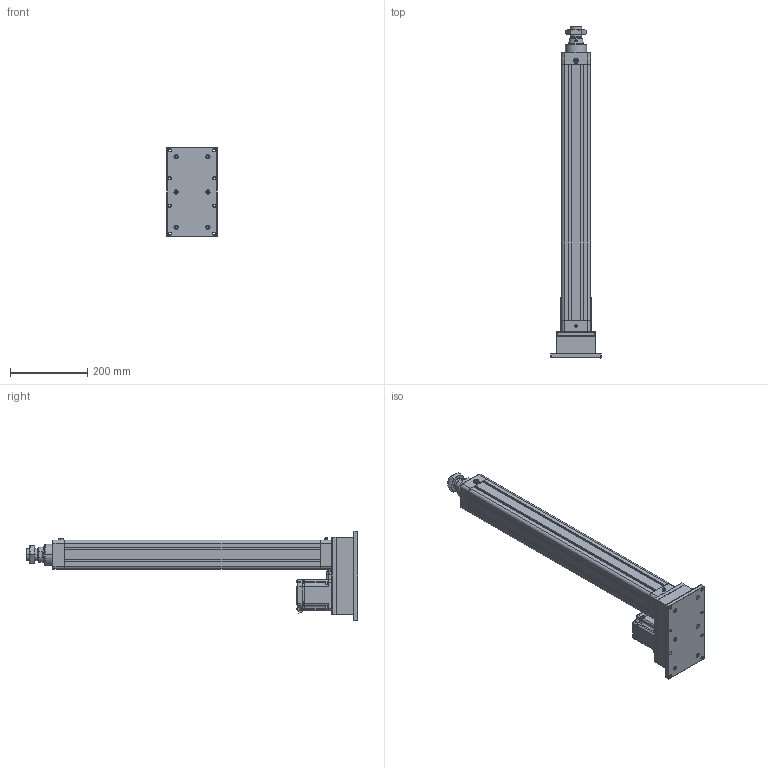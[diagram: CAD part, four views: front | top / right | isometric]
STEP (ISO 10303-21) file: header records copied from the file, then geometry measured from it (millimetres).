
FILE_DESCRIPTION((''),'2;1');
FILE_NAME('HE63-D-100-X1_ASM','2020-04-29T',('ASUS20200'),(''),'CREO PARAMETRIC BY PTC INC, 2014190','CREO PARAMETRIC BY PTC INC, 2014190','');
FILE_SCHEMA(('CONFIG_CONTROL_DESIGN'));
Length unit declared in the file: millimetre
Products named in the file (23): HE63-D-P-001-X1; HE63-D-P-002-X1; HE63-D-P-003-X1; LGLM-M8-22; SLM-01; YZ-M6X1; JDB405030; HE63-P-010-X1-80N; _MHMF082L1A2; MHMF082L1A2M2_1_ASM; JX6X6X25; HE63-P-012-X1; HE63-P-013-X1; M6X60; JM-M8; LM-M8-15; LM-M8X1-25; HE63-D-P-005-X1; HE63-D-P-004-X1; HE63-D-P-008-X1; TD-6; M6X25; HE63-D-100-X1_ASM
Assembly tree (40 placements, depth 3):
  HE63-D-100-X1_ASM
    HE63-D-P-001-X1
    HE63-D-P-002-X1
    HE63-D-P-003-X1
    LGLM-M8-22  x8
    SLM-01
    YZ-M6X1
    JDB405030
    HE63-P-010-X1-80N
    MHMF082L1A2M2_1_ASM
      _MHMF082L1A2
    JX6X6X25
    HE63-P-012-X1
    HE63-P-013-X1
    M6X60  x6
    JM-M8
    LM-M8-15
    LM-M8X1-25
    HE63-D-P-005-X1
    HE63-D-P-004-X1
    HE63-D-P-008-X1
    TD-6  x4
    M6X25  x4
Bounding box: 130 x 857 x 230 mm (x, y, z)
Volume: 2998440.7 mm3; surface area: 849588.1 mm2
Topology: 39 solids, 69 shells, 2130 faces, 5123 edges, 3166 vertices
Faces by surface type: plane 775, cylinder 669, cone 551, torus 102, sphere 30, bspline 3
Entity records: 50900 total; most frequent: CARTESIAN_POINT 9698, DIRECTION 9195, ORIENTED_EDGE 7998, EDGE_CURVE 4049, AXIS2_PLACEMENT_3D 3567, VERTEX_POINT 2513, VECTOR 2061, LINE 2061
